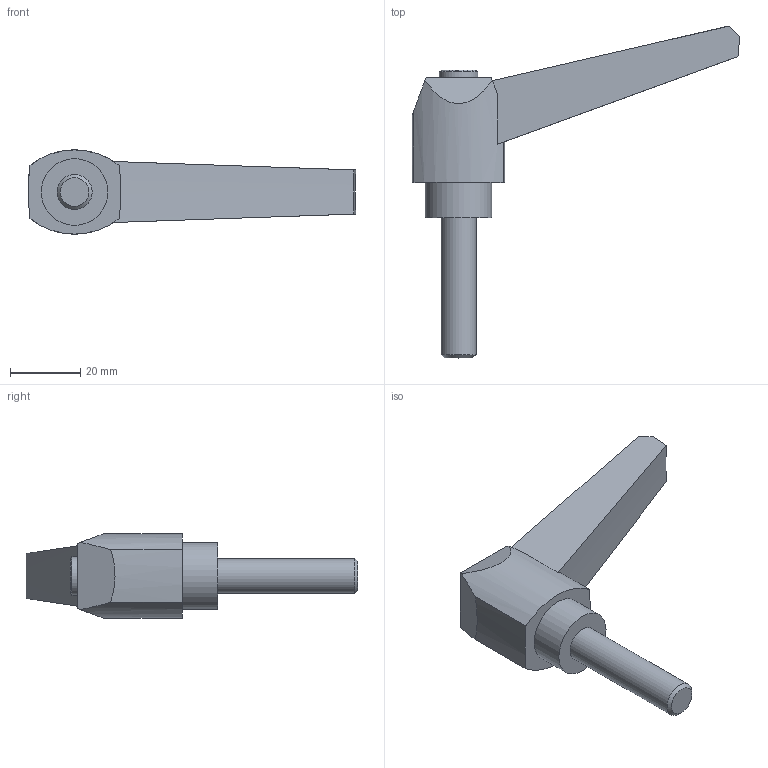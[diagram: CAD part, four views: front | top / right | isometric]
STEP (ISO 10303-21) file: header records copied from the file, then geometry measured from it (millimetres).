
FILE_DESCRIPTION( ( 'STEP AP203' ), '1' );
FILE_NAME( 'C:/Temp/Ganter_Step_05_03_2020/data/2_1/gn_500/gn_500_ms/Adjustable hand lever GN 500-80-M10-40-SW.stp', '2020-03-05T11:26:36', ( 'License CC BY-ND 4.0' ), ( 'CADENAS' ), ' ', 'PARTsolutions', ' ' );
FILE_SCHEMA( ( 'CONFIG_CONTROL_DESIGN' ) );
Length unit declared in the file: millimetre
Products named in the file (1): _Adjustable hand lever GN 500-80-M10-40-SW
Bounding box: 93.3 x 94.58 x 24 mm (x, y, z)
Volume: 35882.3 mm3; surface area: 9138.5 mm2
Topology: 1 solids, 1 shells, 24 faces, 56 edges, 37 vertices
Faces by surface type: plane 11, cylinder 7, cone 6
Full cylindrical faces by diameter (mm): 10 x1, 11 x1, 19 x1
Entity records: 709 total; most frequent: CARTESIAN_POINT 124, DIRECTION 118, ORIENTED_EDGE 100, EDGE_CURVE 50, AXIS2_PLACEMENT_3D 47, VERTEX_POINT 36, EDGE_LOOP 32, FACE_OUTER_BOUND 27
